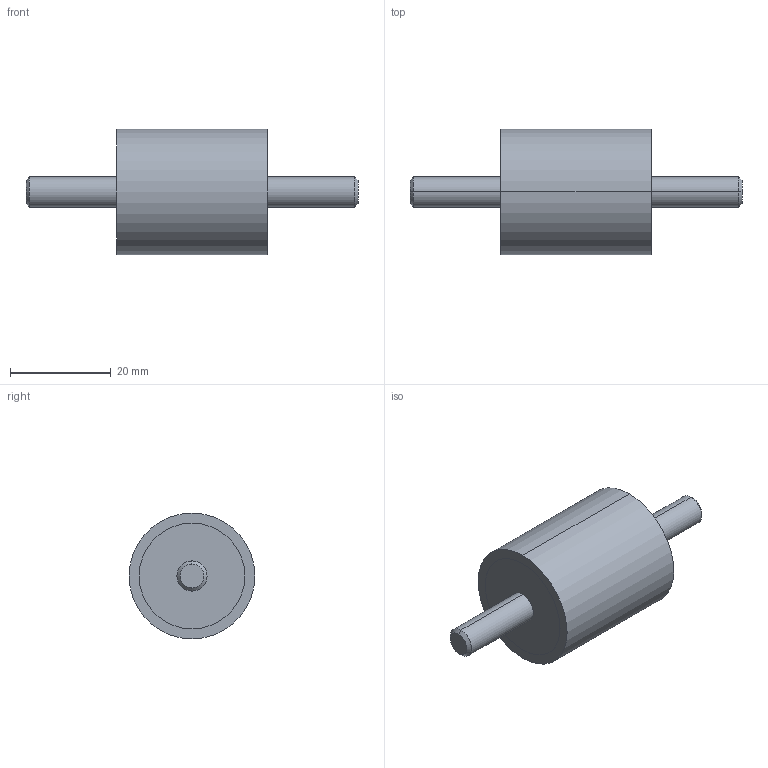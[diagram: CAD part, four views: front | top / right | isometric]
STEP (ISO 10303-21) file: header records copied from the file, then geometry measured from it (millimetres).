
FILE_DESCRIPTION (( 'STEP AP214' ), '1' );
FILE_NAME ('351-25-30-M6-SS-40.step', '2025-07-23T10:01:18', ( '' ), ( '' ), 'SwSTEP 2.0', 'SolidWorks 2022', '' );
FILE_SCHEMA (( 'AUTOMOTIVE_DESIGN' ));
Length unit declared in the file: millimetre
Products named in the file (1): 351-25-30-M6-SS-40
Bounding box: 66 x 25 x 25 mm (x, y, z)
Volume: 15730.3 mm3; surface area: 4002.8 mm2
Topology: 1 solids, 1 shells, 20 faces, 38 edges, 24 vertices
Faces by surface type: cylinder 10, plane 6, cone 4
Entity records: 636 total; most frequent: DIRECTION 104, CARTESIAN_POINT 83, ORIENTED_EDGE 76, AXIS2_PLACEMENT_3D 45, EDGE_CURVE 38, EDGE_LOOP 24, CIRCLE 24, VERTEX_POINT 24
